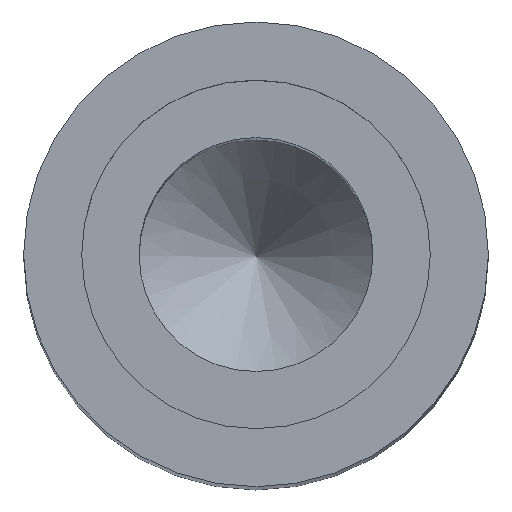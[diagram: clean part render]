
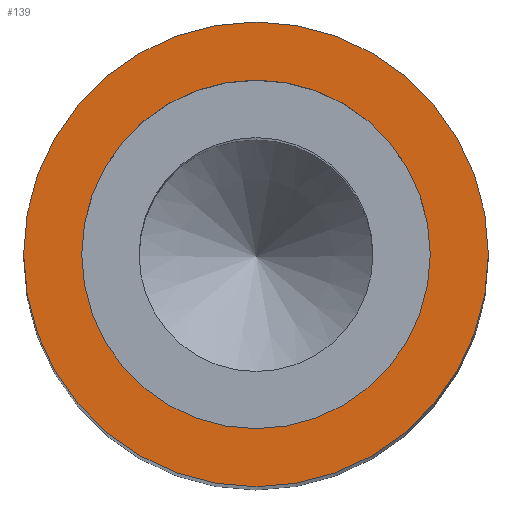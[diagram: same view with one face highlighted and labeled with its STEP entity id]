
A CAD part, top view. The second image highlights one B-rep face of the part: STEP entity #139.
In plain terms, the highlighted planar face has unit normal (0, 0, 1).
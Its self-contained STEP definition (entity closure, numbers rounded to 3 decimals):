
#20=FACE_BOUND('',#45,.T.);
#24=PLANE('',#177);
#33=FACE_OUTER_BOUND('',#44,.T.);
#44=EDGE_LOOP('',(#122));
#45=EDGE_LOOP('',(#123));
#64=CIRCLE('',#168,1.5);
#69=CIRCLE('',#178,2.);
#75=VERTEX_POINT('',#242);
#80=VERTEX_POINT('',#261);
#86=EDGE_CURVE('',#75,#75,#64,.T.);
#95=EDGE_CURVE('',#80,#80,#69,.T.);
#122=ORIENTED_EDGE('',*,*,#95,.F.);
#123=ORIENTED_EDGE('',*,*,#86,.T.);
#139=ADVANCED_FACE('',(#33,#20),#24,.T.);
#168=AXIS2_PLACEMENT_3D('',#243,#197,#198);
#177=AXIS2_PLACEMENT_3D('',#260,#219,#220);
#178=AXIS2_PLACEMENT_3D('',#262,#221,#222);
#197=DIRECTION('center_axis',(0.,0.,-1.));
#198=DIRECTION('ref_axis',(1.,0.,0.));
#219=DIRECTION('center_axis',(0.,0.,1.));
#220=DIRECTION('ref_axis',(1.,0.,0.));
#221=DIRECTION('center_axis',(0.,0.,-1.));
#222=DIRECTION('ref_axis',(1.,0.,0.));
#242=CARTESIAN_POINT('',(-1.5,0.,0.));
#243=CARTESIAN_POINT('Origin',(0.,0.,0.));
#260=CARTESIAN_POINT('Origin',(0.,2.,0.));
#261=CARTESIAN_POINT('',(0.,-2.,0.));
#262=CARTESIAN_POINT('Origin',(0.,0.,0.));
